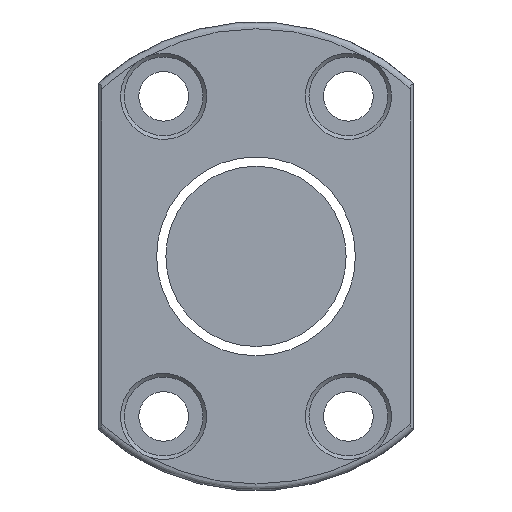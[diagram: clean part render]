
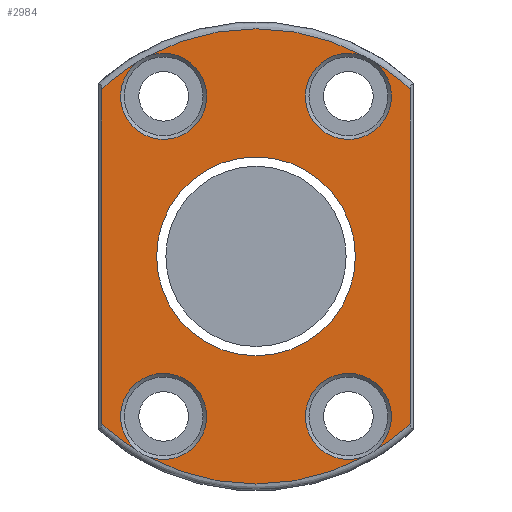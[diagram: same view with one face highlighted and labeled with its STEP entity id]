
A CAD part, left-side view. The second image highlights one B-rep face of the part: STEP entity #2984.
In plain terms, the highlighted planar face has unit normal (-1, 0, 0).
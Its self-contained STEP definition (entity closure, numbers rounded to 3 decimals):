
#27 = CARTESIAN_POINT ( 'NONE',  ( -88., -24.306, -44.266 ) ) ;
#39 = ORIENTED_EDGE ( 'NONE', *, *, #292, .T. ) ;
#56 = CIRCLE ( 'NONE', #2659, 9.55 ) ;
#119 = VERTEX_POINT ( 'NONE', #27 ) ;
#143 = ORIENTED_EDGE ( 'NONE', *, *, #3138, .T. ) ;
#145 = VERTEX_POINT ( 'NONE', #1533 ) ;
#183 = DIRECTION ( 'NONE',  ( 1., 0., 0. ) ) ;
#266 = CIRCLE ( 'NONE', #951, 50.5 ) ;
#284 = ORIENTED_EDGE ( 'NONE', *, *, #1185, .T. ) ;
#292 = EDGE_CURVE ( 'NONE', #1693, #807, #2670, .T. ) ;
#321 = DIRECTION ( 'NONE',  ( -1., 0., 0. ) ) ;
#424 = CIRCLE ( 'NONE', #1428, 50.5 ) ;
#442 = CARTESIAN_POINT ( 'NONE',  ( -88., 34.2, -38.458 ) ) ;
#443 = CARTESIAN_POINT ( 'NONE',  ( -88., 0., 0. ) ) ;
#459 = DIRECTION ( 'NONE',  ( 0., -1., 0. ) ) ;
#471 = CARTESIAN_POINT ( 'NONE',  ( -88., -26.182, -43.183 ) ) ;
#571 = CIRCLE ( 'NONE', #2126, 9.55 ) ;
#576 = ORIENTED_EDGE ( 'NONE', *, *, #2274, .T. ) ;
#611 = EDGE_CURVE ( 'NONE', #2075, #1693, #1740, .T. ) ;
#612 = DIRECTION ( 'NONE',  ( 0., -1., 0. ) ) ;
#619 = CIRCLE ( 'NONE', #1581, 50.5 ) ;
#630 = DIRECTION ( 'NONE',  ( 0., -1., 0. ) ) ;
#639 = VERTEX_POINT ( 'NONE', #471 ) ;
#679 = VECTOR ( 'NONE', #1997, 1000. ) ;
#722 = DIRECTION ( 'NONE',  ( -1., 0., 0. ) ) ;
#727 = CARTESIAN_POINT ( 'NONE',  ( -88., -26.182, 43.183 ) ) ;
#763 = ORIENTED_EDGE ( 'NONE', *, *, #1429, .T. ) ;
#807 = VERTEX_POINT ( 'NONE', #2713 ) ;
#818 = VERTEX_POINT ( 'NONE', #2245 ) ;
#835 = VERTEX_POINT ( 'NONE', #1221 ) ;
#881 = ORIENTED_EDGE ( 'NONE', *, *, #1966, .T. ) ;
#883 = CIRCLE ( 'NONE', #2758, 50.5 ) ;
#890 = CARTESIAN_POINT ( 'NONE',  ( -88., -34.2, 37.157 ) ) ;
#933 = ORIENTED_EDGE ( 'NONE', *, *, #2969, .T. ) ;
#951 = AXIS2_PLACEMENT_3D ( 'NONE', #1669, #3194, #612 ) ;
#955 = CARTESIAN_POINT ( 'NONE',  ( -88., 0., 0. ) ) ;
#1110 = VECTOR ( 'NONE', #2444, 1000. ) ;
#1142 = CARTESIAN_POINT ( 'NONE',  ( -88., -20.5, 35.507 ) ) ;
#1149 = AXIS2_PLACEMENT_3D ( 'NONE', #1214, #1748, #3225 ) ;
#1151 = DIRECTION ( 'NONE',  ( 0., -1., 0. ) ) ;
#1184 = CARTESIAN_POINT ( 'NONE',  ( -88., 20.5, 35.507 ) ) ;
#1185 = EDGE_CURVE ( 'NONE', #835, #119, #266, .T. ) ;
#1214 = CARTESIAN_POINT ( 'NONE',  ( -88., -20.5, -35.507 ) ) ;
#1221 = CARTESIAN_POINT ( 'NONE',  ( -88., 24.306, -44.266 ) ) ;
#1222 = DIRECTION ( 'NONE',  ( 0., -1., 0. ) ) ;
#1328 = VERTEX_POINT ( 'NONE', #2724 ) ;
#1329 = EDGE_CURVE ( 'NONE', #1393, #1328, #56, .T. ) ;
#1334 = DIRECTION ( 'NONE',  ( 0., -1., 0. ) ) ;
#1393 = VERTEX_POINT ( 'NONE', #727 ) ;
#1428 = AXIS2_PLACEMENT_3D ( 'NONE', #1572, #321, #1334 ) ;
#1429 = EDGE_CURVE ( 'NONE', #119, #639, #2596, .T. ) ;
#1459 = CARTESIAN_POINT ( 'NONE',  ( -88., -34.2, 38.458 ) ) ;
#1467 = DIRECTION ( 'NONE',  ( 1., 0., 0. ) ) ;
#1471 = AXIS2_PLACEMENT_3D ( 'NONE', #1184, #1467, #1151 ) ;
#1478 = CIRCLE ( 'NONE', #1915, 22.05 ) ;
#1490 = CARTESIAN_POINT ( 'NONE',  ( -88., 34.2, 37.157 ) ) ;
#1533 = CARTESIAN_POINT ( 'NONE',  ( -88., -34.2, -37.157 ) ) ;
#1572 = CARTESIAN_POINT ( 'NONE',  ( -88., 0., 0. ) ) ;
#1581 = AXIS2_PLACEMENT_3D ( 'NONE', #955, #722, #459 ) ;
#1585 = DIRECTION ( 'NONE',  ( 1., 0., 0. ) ) ;
#1662 = DIRECTION ( 'NONE',  ( -1., 0., 0. ) ) ;
#1668 = ORIENTED_EDGE ( 'NONE', *, *, #1329, .T. ) ;
#1669 = CARTESIAN_POINT ( 'NONE',  ( -88., 0., 0. ) ) ;
#1693 = VERTEX_POINT ( 'NONE', #2030 ) ;
#1697 = DIRECTION ( 'NONE',  ( 0., -1., 0. ) ) ;
#1740 = LINE ( 'NONE', #442, #1110 ) ;
#1748 = DIRECTION ( 'NONE',  ( 1., 0., 0. ) ) ;
#1784 = VERTEX_POINT ( 'NONE', #2305 ) ;
#1814 = ORIENTED_EDGE ( 'NONE', *, *, #2741, .T. ) ;
#1875 = CARTESIAN_POINT ( 'NONE',  ( -88., 26.182, 43.183 ) ) ;
#1911 = ORIENTED_EDGE ( 'NONE', *, *, #1931, .T. ) ;
#1915 = AXIS2_PLACEMENT_3D ( 'NONE', #2657, #1585, #2606 ) ;
#1931 = EDGE_CURVE ( 'NONE', #2458, #1393, #619, .T. ) ;
#1966 = EDGE_CURVE ( 'NONE', #145, #2458, #3222, .T. ) ;
#1997 = DIRECTION ( 'NONE',  ( 0., 0., 1. ) ) ;
#2030 = CARTESIAN_POINT ( 'NONE',  ( -88., 34.2, -37.157 ) ) ;
#2041 = CARTESIAN_POINT ( 'NONE',  ( -88., 0., 0. ) ) ;
#2075 = VERTEX_POINT ( 'NONE', #1490 ) ;
#2079 = DIRECTION ( 'NONE',  ( 0., -1., 0. ) ) ;
#2094 = FACE_OUTER_BOUND ( 'NONE', #2337, .T. ) ;
#2126 = AXIS2_PLACEMENT_3D ( 'NONE', #2246, #183, #1222 ) ;
#2136 = EDGE_CURVE ( 'NONE', #818, #2631, #2488, .T. ) ;
#2140 = DIRECTION ( 'NONE',  ( 1., 0., 0. ) ) ;
#2144 = FACE_BOUND ( 'NONE', #2957, .T. ) ;
#2198 = CARTESIAN_POINT ( 'NONE',  ( -88., 0., 0. ) ) ;
#2245 = CARTESIAN_POINT ( 'NONE',  ( -88., 24.306, 44.266 ) ) ;
#2246 = CARTESIAN_POINT ( 'NONE',  ( -88., 20.5, -35.507 ) ) ;
#2274 = EDGE_CURVE ( 'NONE', #1328, #818, #883, .T. ) ;
#2275 = DIRECTION ( 'NONE',  ( -1., 0., 0. ) ) ;
#2305 = CARTESIAN_POINT ( 'NONE',  ( -88., 22.05, 0. ) ) ;
#2337 = EDGE_LOOP ( 'NONE', ( #881, #1911, #1668, #576, #2367, #143, #2562, #39, #1814, #284, #763, #2598 ) ) ;
#2338 = AXIS2_PLACEMENT_3D ( 'NONE', #2623, #2590, #2079 ) ;
#2367 = ORIENTED_EDGE ( 'NONE', *, *, #2136, .T. ) ;
#2444 = DIRECTION ( 'NONE',  ( 0., 0., -1. ) ) ;
#2458 = VERTEX_POINT ( 'NONE', #890 ) ;
#2488 = CIRCLE ( 'NONE', #1471, 9.55 ) ;
#2562 = ORIENTED_EDGE ( 'NONE', *, *, #611, .T. ) ;
#2590 = DIRECTION ( 'NONE',  ( -1., 0., 0. ) ) ;
#2596 = CIRCLE ( 'NONE', #1149, 9.55 ) ;
#2598 = ORIENTED_EDGE ( 'NONE', *, *, #2731, .T. ) ;
#2606 = DIRECTION ( 'NONE',  ( 0., 1., 0. ) ) ;
#2623 = CARTESIAN_POINT ( 'NONE',  ( -88., 52., 0. ) ) ;
#2631 = VERTEX_POINT ( 'NONE', #1875 ) ;
#2657 = CARTESIAN_POINT ( 'NONE',  ( -88., 0., 0. ) ) ;
#2659 = AXIS2_PLACEMENT_3D ( 'NONE', #1142, #2140, #630 ) ;
#2670 = CIRCLE ( 'NONE', #2877, 50.5 ) ;
#2713 = CARTESIAN_POINT ( 'NONE',  ( -88., 26.182, -43.183 ) ) ;
#2724 = CARTESIAN_POINT ( 'NONE',  ( -88., -24.306, 44.266 ) ) ;
#2731 = EDGE_CURVE ( 'NONE', #639, #145, #3282, .T. ) ;
#2741 = EDGE_CURVE ( 'NONE', #807, #835, #571, .T. ) ;
#2758 = AXIS2_PLACEMENT_3D ( 'NONE', #2198, #3230, #2958 ) ;
#2764 = AXIS2_PLACEMENT_3D ( 'NONE', #443, #1662, #1697 ) ;
#2877 = AXIS2_PLACEMENT_3D ( 'NONE', #2041, #2275, #3052 ) ;
#2957 = EDGE_LOOP ( 'NONE', ( #933 ) ) ;
#2958 = DIRECTION ( 'NONE',  ( 0., -1., 0. ) ) ;
#2969 = EDGE_CURVE ( 'NONE', #1784, #1784, #1478, .T. ) ;
#2984 = ADVANCED_FACE ( 'NONE', ( #2094, #2144 ), #3149, .T. ) ;
#3052 = DIRECTION ( 'NONE',  ( 0., -1., 0. ) ) ;
#3138 = EDGE_CURVE ( 'NONE', #2631, #2075, #424, .T. ) ;
#3149 = PLANE ( 'NONE',  #2338 ) ;
#3194 = DIRECTION ( 'NONE',  ( -1., 0., 0. ) ) ;
#3222 = LINE ( 'NONE', #1459, #679 ) ;
#3225 = DIRECTION ( 'NONE',  ( 0., -1., 0. ) ) ;
#3230 = DIRECTION ( 'NONE',  ( -1., 0., 0. ) ) ;
#3282 = CIRCLE ( 'NONE', #2764, 50.5 ) ;
